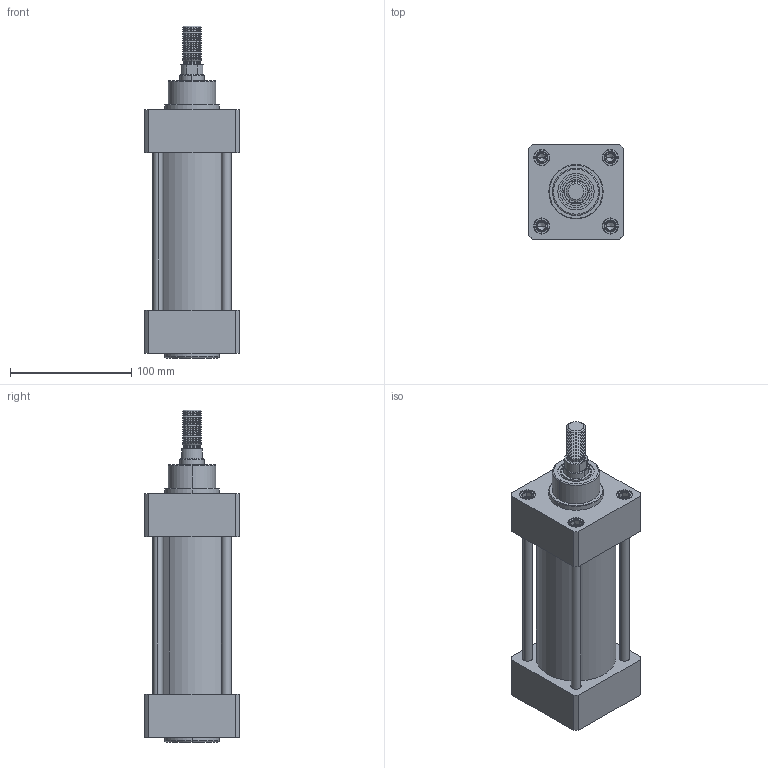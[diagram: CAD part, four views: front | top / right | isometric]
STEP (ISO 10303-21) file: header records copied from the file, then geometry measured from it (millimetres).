
FILE_DESCRIPTION (( 'STEP AP203' ), '1' );
FILE_NAME ('XJSS63.0080.STEP', '2005-11-30T16:34:52', ( 'Vesta Automation srl' ), ( 'Vesta Automation srl' ), 'SwSTEP 2.0', 'SolidWorks 2005187', '' );
FILE_SCHEMA (( 'CONFIG_CONTROL_DESIGN' ));
Length unit declared in the file: millimetre
Products named in the file (6): TIE ROD-XJSS63_STROKE 0080; PISTON ROD-XJSS63_STROKE 0080; XJSS63.0080; FRONT END CAP-XJSS63; REAR END CAP-XJSS63; BARREL-XJSS63_STROKE 0080
Assembly tree (8 placements, depth 2):
  XJSS63.0080
    FRONT END CAP-XJSS63
    PISTON ROD-XJSS63_STROKE 0080
    REAR END CAP-XJSS63
    TIE ROD-XJSS63_STROKE 0080  x4
    BARREL-XJSS63_STROKE 0080
Bounding box: 78 x 78 x 274 mm (x, y, z)
Volume: 674223.6 mm3; surface area: 181518.7 mm2
Topology: 8 solids, 9 shells, 950 faces, 2019 edges, 1171 vertices
Faces by surface type: cone 544, plane 234, cylinder 164, torus 8
Entity records: 25863 total; most frequent: DIRECTION 4733, CARTESIAN_POINT 4533, ORIENTED_EDGE 3966, EDGE_CURVE 1983, AXIS2_PLACEMENT_3D 1909, VERTEX_POINT 1159, EDGE_LOOP 1048, CIRCLE 960
